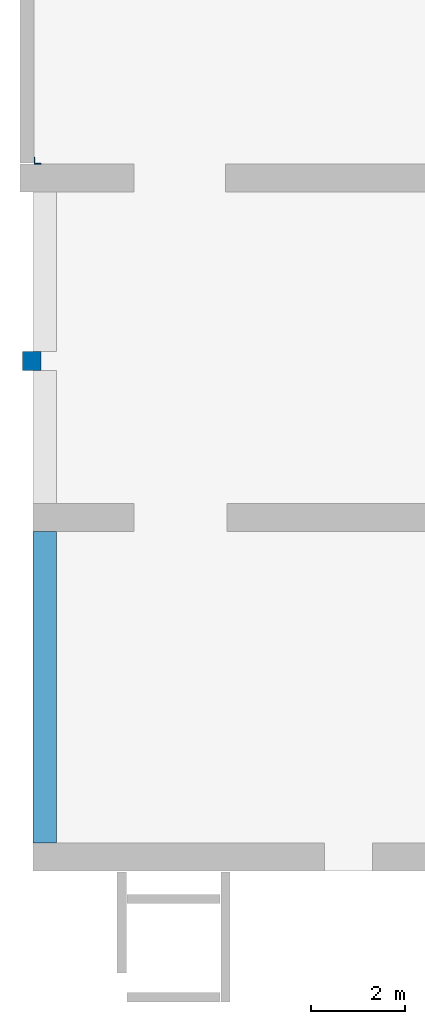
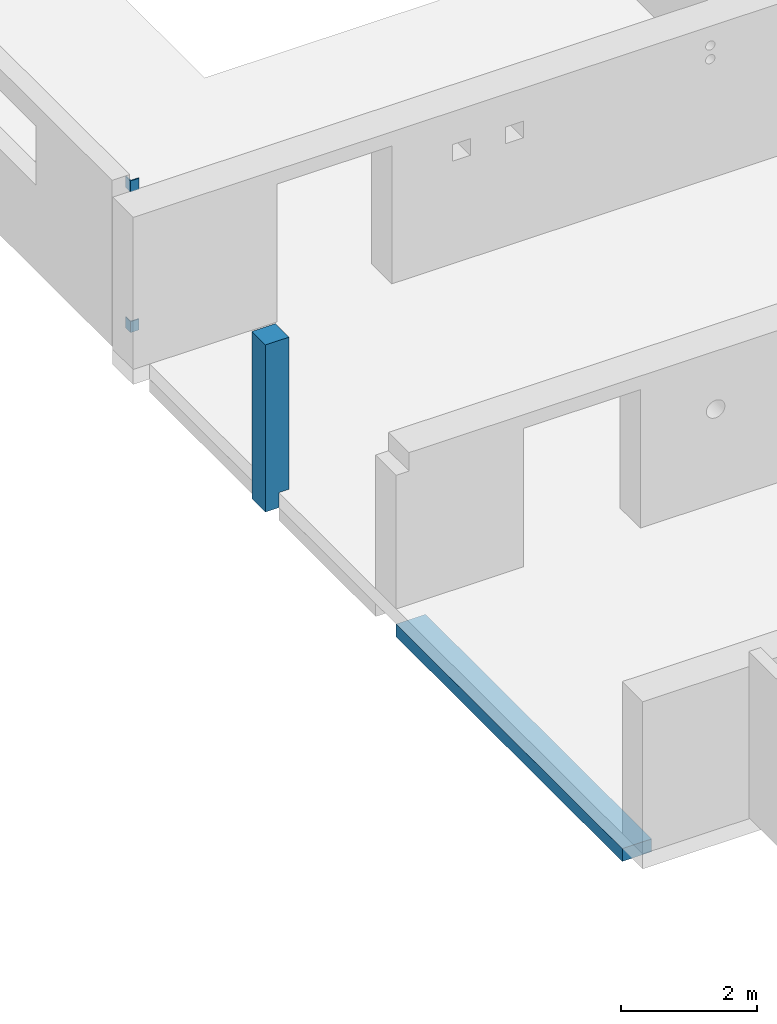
# One storey, part 2 of 8: 3 columns, 1 beam.
"""IFC2X3 building model written with IfcOpenShell, lengths in millimetres."""

from ifc_helpers import new_model, entity, si_unit, converted_unit, derived_unit, direction, frame, frame_2d, origin, place, context, subcontext, project, spatial, polyline, circle_curve, parameter, trimmed, segment, composite_curve, rectangle, outline, extrude, faceted_brep, source, transform, mapped, material, type_object, type_shapes, element, save


model = new_model("IFC2X3")

# Units and contexts
model_context = context("Model", 3, precision=0.01, world=origin(), true_north=direction((6.12303176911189e-17, 1.0)))
body_context = subcontext(model_context, "Body", "Model", "MODEL_VIEW")
ifc_project = project(units=[si_unit("LENGTHUNIT", "METRE", prefix="MILLI"), si_unit("AREAUNIT", "SQUARE_METRE"), si_unit("VOLUMEUNIT", "CUBIC_METRE"), converted_unit("PLANEANGLEUNIT", "DEGREE", entity("IfcRatioMeasure", 0.0174532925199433), si_unit("PLANEANGLEUNIT", "RADIAN"), dimensions=[0, 0, 0, 0, 0, 0, 0]), si_unit("MASSUNIT", "GRAM", prefix="KILO"), derived_unit("MASSDENSITYUNIT", [(si_unit("MASSUNIT", "GRAM", prefix="KILO"), 1), (si_unit("LENGTHUNIT", "METRE"), -3)]), si_unit("TIMEUNIT", "SECOND"), si_unit("FREQUENCYUNIT", "HERTZ"), si_unit("THERMODYNAMICTEMPERATUREUNIT", "DEGREE_CELSIUS"), derived_unit("THERMALTRANSMITTANCEUNIT", [(si_unit("MASSUNIT", "GRAM", prefix="KILO"), 1), (si_unit("THERMODYNAMICTEMPERATUREUNIT", "KELVIN"), -1), (si_unit("TIMEUNIT", "SECOND"), -3)]), derived_unit("VOLUMETRICFLOWRATEUNIT", [(si_unit("LENGTHUNIT", "METRE"), 3), (si_unit("TIMEUNIT", "SECOND"), -1)]), si_unit("ELECTRICCURRENTUNIT", "AMPERE"), si_unit("ELECTRICVOLTAGEUNIT", "VOLT"), si_unit("POWERUNIT", "WATT"), si_unit("FORCEUNIT", "NEWTON", prefix="KILO"), si_unit("ILLUMINANCEUNIT", "LUX"), si_unit("LUMINOUSFLUXUNIT", "LUMEN"), si_unit("LUMINOUSINTENSITYUNIT", "CANDELA"), derived_unit("USERDEFINED", [(si_unit("MASSUNIT", "GRAM", prefix="KILO"), -1), (si_unit("LENGTHUNIT", "METRE"), -2), (si_unit("TIMEUNIT", "SECOND"), 3), (si_unit("LUMINOUSFLUXUNIT", "LUMEN"), 1)]), derived_unit("LINEARVELOCITYUNIT", [(si_unit("LENGTHUNIT", "METRE"), 1), (si_unit("TIMEUNIT", "SECOND"), -1)]), si_unit("PRESSUREUNIT", "PASCAL"), derived_unit("USERDEFINED", [(si_unit("LENGTHUNIT", "METRE"), -2), (si_unit("MASSUNIT", "GRAM", prefix="KILO"), 1), (si_unit("TIMEUNIT", "SECOND"), -2)])], contexts=[model_context])

# Site, building, storey
site_placement = place(None, origin())
site = spatial("IfcSite", under=ifc_project, at=site_placement, Name="Default", CompositionType="ELEMENT")
building_placement = place(site_placement, origin())
building = spatial("IfcBuilding", under=site, at=building_placement, Name="niet gebruiken", CompositionType="ELEMENT")
storey_placement = place(building_placement, frame((0.0, 0.0, 3000.0)))
storey = spatial("IfcBuildingStorey", under=building, at=storey_placement, Name="00a eerste tussenverdieping", CompositionType="ELEMENT", Elevation=3000.00000000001)

# Columns
ifc_material_1 = material(Name="NLRS_f2_beton ihwg")
column_type_1 = type_object("IfcColumnType", Name="400x400", PredefinedType="COLUMN", material=ifc_material_1)
shared_shape_1 = source(origin(), body_context, "Body", "Brep", [
    faceted_brep([(0.0, 0.0, 3000.0), (0.0, 400.0, 3000.0), (0.0, 400.0, 2670.0), (0.0, 400.0, 2250.0), (0.0, 400.0, 1940.0), (0.0, 400.0, 0.0), (0.0, 0.0, 0.0), (0.0, 0.0, 1940.0), (0.0, 0.0, 2250.0), (0.0, 0.0, 2670.0), (400.0, 400.0, 3000.0), (400.0, 0.0, 3000.0), (400.0, 0.0, 2670.0), (400.0, 0.0, 270.0), (400.0, 400.0, 270.0), (400.0, 400.0, 2670.0), (230.0, 400.0, 0.0), (230.0, 0.0, 0.0), (230.0, 400.0, 270.0), (230.0, 0.0, 270.0)], [[[0, 1, 2, 3, 4, 5, 6, 7, 8, 9]], [[10, 11, 12, 13, 14, 15]], [[0, 11, 10, 1]], [[6, 5, 16, 17]], [[1, 10, 15, 14, 18, 16, 5, 4, 3, 2]], [[11, 0, 9, 8, 7, 6, 17, 19, 13, 12]], [[18, 19, 17, 16]], [[19, 18, 14, 13]]]),
])
type_shapes(column_type_1, [shared_shape_1])
column_1_placement = place(storey_placement, frame((124300.0, 20646.0, -360.0)))
element("IfcColumn", 1, at=column_1_placement, inside=storey, type_object=column_type_1, material=ifc_material_1, Name="NLRS_28.11_SCO_TLB_beton kolom ihwg_gen:400x400", ObjectType="400x400", context=body_context, shape_type="MappedRepresentation", body=[
    mapped(shared_shape_1, transform((0.0, 0.0, 0.0), scale=1.0)),
])
ifc_material_2 = material(Name="NLRS_h2_staal")
column_type_2 = type_object("IfcColumnType", Name="kolomgelijzijdig hoekprofiel LEQU_150x150x15", PredefinedType="COLUMN", material=ifc_material_2)
shared_shape_2 = source(origin(), body_context, "Body", "SweptSolid", [
    extrude(outline(composite_curve([segment(polyline([(-93.3333333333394, -56.6666666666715), (56.6666666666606, -56.6666666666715)]), True, "CONTINUOUS"), segment(polyline([(56.6666666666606, -56.6666666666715), (56.6666666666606, 93.333333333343)]), True, "CONTINUOUS"), segment(polyline([(56.6666666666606, 93.333333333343), (49.6666666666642, 93.333333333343)]), True, "CONTINUOUS"), segment(trimmed(circle_curve(frame_2d((49.666666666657, 85.333333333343), x_axis=(0.0, 1.0)), 7.99999999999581), [parameter(0.0)], [parameter(90.0000000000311)], True, "PARAMETER"), True, "CONTINUOUS"), segment(polyline([(41.6666666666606, 85.333333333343), (41.6666666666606, -25.666666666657)]), True, "CONTINUOUS"), segment(trimmed(circle_curve(frame_2d((25.6666666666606, -25.666666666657), x_axis=(1.0, 0.0)), 15.999999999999), [parameter(270.0)], [parameter(0.0)], True, "PARAMETER"), False, "CONTINUOUS"), segment(polyline([(25.6666666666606, -41.6666666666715), (-85.3333333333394, -41.6666666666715)]), True, "CONTINUOUS"), segment(trimmed(circle_curve(frame_2d((-85.3333333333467, -49.6666666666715), x_axis=(0.0, 1.0)), 7.99999999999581), [parameter(0.0)], [parameter(90.0000000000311)], True, "PARAMETER"), True, "CONTINUOUS"), segment(polyline([(-93.3333333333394, -49.6666666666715), (-93.3333333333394, -56.6666666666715)]), True, "CONTINUOUS")], self_intersect=False)), frame((124606.766666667, 25106.6666666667, 5625.0), z_axis=(0.0, 0.0, 1.0), x_axis=(0.0, -1.0, 0.0)), (0.0, 0.0, 1.0), 200.0),
])
type_shapes(column_type_2, [shared_shape_2])
column_2_placement = place(storey_placement, frame((0.0, 0.0, -3000.0)))
element("IfcColumn", 2, at=column_2_placement, inside=storey, type_object=column_type_2, material=ifc_material_2, Name="NLRS_28.11_SCO_TLB_stalen kolom hoekprofiel gelijkzijdig_gen:kolomgelijzijdig hoekprofiel LEQU_150x150x15", ObjectType="kolomgelijzijdig hoekprofiel LEQU_150x150x15", context=body_context, shape_type="MappedRepresentation", body=[
    mapped(shared_shape_2, transform((0.0, 0.0, 0.0), scale=1.0)),
])
column_type_3 = type_object("IfcColumnType", Name="kolomgelijzijdig hoekprofiel LEQU_150x150x15", PredefinedType="COLUMN", material=ifc_material_2)
shared_shape_3 = source(origin(), body_context, "Body", "SweptSolid", [
    extrude(outline(composite_curve([segment(polyline([(-93.3333333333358, -56.6666666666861), (56.6666666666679, -56.6666666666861)]), True, "CONTINUOUS"), segment(polyline([(56.6666666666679, -56.6666666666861), (56.6666666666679, 93.3333333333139)]), True, "CONTINUOUS"), segment(polyline([(56.6666666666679, 93.3333333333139), (49.6666666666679, 93.3333333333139)]), True, "CONTINUOUS"), segment(trimmed(circle_curve(frame_2d((49.6666666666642, 85.3333333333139), x_axis=(0.0, 1.0)), 7.99999999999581), [parameter(0.0)], [parameter(90.0000000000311)], True, "PARAMETER"), True, "CONTINUOUS"), segment(polyline([(41.6666666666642, 85.3333333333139), (41.6666666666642, -25.6666666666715)]), True, "CONTINUOUS"), segment(trimmed(circle_curve(frame_2d((25.6666666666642, -25.6666666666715), x_axis=(1.0, 0.0)), 15.999999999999), [parameter(270.0)], [parameter(0.0)], True, "PARAMETER"), False, "CONTINUOUS"), segment(polyline([(25.6666666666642, -41.6666666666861), (-85.3333333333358, -41.6666666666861)]), True, "CONTINUOUS"), segment(trimmed(circle_curve(frame_2d((-85.3333333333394, -49.6666666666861), x_axis=(0.0, 1.0)), 7.99999999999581), [parameter(0.0)], [parameter(90.0000000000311)], True, "PARAMETER"), True, "CONTINUOUS"), segment(polyline([(-93.3333333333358, -49.6666666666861), (-93.3333333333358, -56.6666666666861)]), True, "CONTINUOUS")], self_intersect=False)), frame((124606.766666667, 25106.6666666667, 3100.0), z_axis=(0.0, 0.0, 1.0), x_axis=(0.0, -1.0, 0.0)), (0.0, 0.0, 1.0), 200.0),
])
type_shapes(column_type_3, [shared_shape_3])
column_3_placement = place(storey_placement, frame((0.0, 0.0, -3000.0)))
element("IfcColumn", 3, at=column_3_placement, inside=storey, type_object=column_type_3, material=ifc_material_2, Name="NLRS_28.11_SCO_TLB_stalen kolom hoekprofiel gelijkzijdig_gen:kolomgelijzijdig hoekprofiel LEQU_150x150x15", ObjectType="kolomgelijzijdig hoekprofiel LEQU_150x150x15", context=body_context, shape_type="MappedRepresentation", body=[
    mapped(shared_shape_3, transform((0.0, 0.0, 0.0), scale=1.0)),
])

# Beam
beam_type = type_object("IfcBeamType", Name="500x500", PredefinedType="BEAM", material=ifc_material_1)
beam_placement = place(storey_placement, frame((124780.0, 17500.0, -90.0), z_axis=(0.0, 0.0, 1.0), x_axis=(0.0, -1.0, 0.0)))
element("IfcBeam", 4, at=beam_placement, inside=storey, type_object=beam_type, material=ifc_material_1, Name="NLRS_28.11_SF_WPB_betonbalk ihwg recht_gen:500x500", ObjectType="NLRS_28.11_SF_WPB_betonbalk ihwg recht_gen:500x500", context=body_context, shape_type="SweptSolid", body=[
    extrude(rectangle(XDim=230.0, YDim=499.99999999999, at=frame_2d((1.35003119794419e-13, 0.0), x_axis=(1.0, 0.0))), frame((300.0, 0.0, -385.0), z_axis=(1.0, 0.0, 0.0), x_axis=(0.0, 0.0, -1.0)), (0.0, 0.0, 1.0), 6650.00000000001),
])

save(model, "model.ifc")
